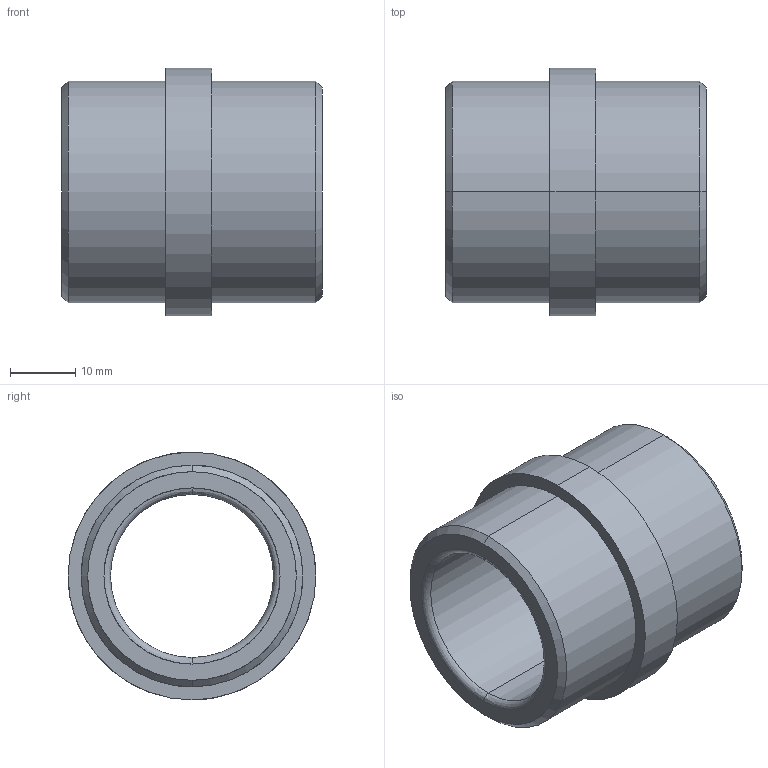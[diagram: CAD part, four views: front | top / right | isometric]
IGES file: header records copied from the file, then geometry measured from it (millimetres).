
Start section: START RECORD GO HERE.
Global section: file name: 355-25X40.igs; native system: DASSAULT SYSTEMES CATIA V5 R20 - www.3ds.com; preprocessor: CATIA Version 5 Release 20 ; author: Utente; organization: NB04-ASUS; date: 20210421.105446; units: millimetre
Bounding box: 40 x 38 x 38 mm (x, y, z)
Surface area: 8594.3 mm2 (no closed solid volume)
Topology: 0 solids, 0 shells, 20 faces, 128 edges, 128 vertices
Faces by surface type: revolution 16, plane 4
